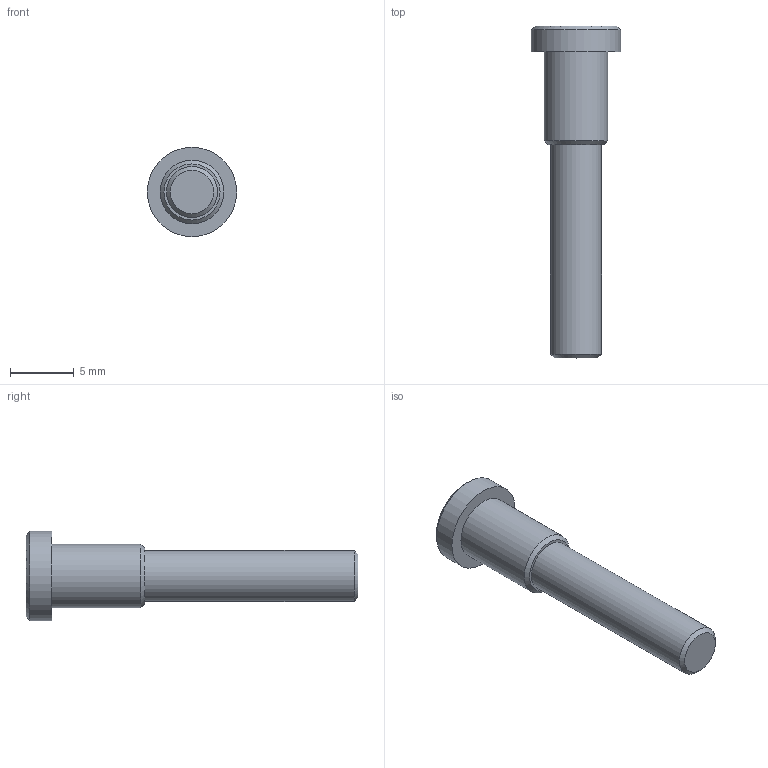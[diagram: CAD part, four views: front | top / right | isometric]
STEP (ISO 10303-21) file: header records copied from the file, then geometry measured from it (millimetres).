
FILE_DESCRIPTION((''),'2;1');
FILE_NAME('C:\Documents and Settings\rivolro1\Documenti\copia di Raccordi\PLASTICA\T09XX00\T090400.stp','2007-10-30T17:18:35',('Rivolro1'),(''),'Autodesk Inventor 2008','Autodesk Inventor 2008','');
FILE_SCHEMA(('AUTOMOTIVE_DESIGN { 1 0 10303 214 1 1 1 1 }'));
Length unit declared in the file: millimetre
Products named in the file (1): T090400
Bounding box: 7 x 26 x 7 mm (x, y, z)
Volume: 428 mm3; surface area: 436.3 mm2
Topology: 1 solids, 1 shells, 10 faces, 15 edges, 9 vertices
Faces by surface type: plane 4, cone 3, cylinder 3
Full cylindrical faces by diameter (mm): 4 x1, 5 x1, 7 x1
Entity records: 220 total; most frequent: DIRECTION 40, CARTESIAN_POINT 29, AXIS2_PLACEMENT_3D 20, ORIENTED_EDGE 18, EDGE_LOOP 18, FACE_OUTER_BOUND 10, ADVANCED_FACE 10, VERTEX_POINT 9
